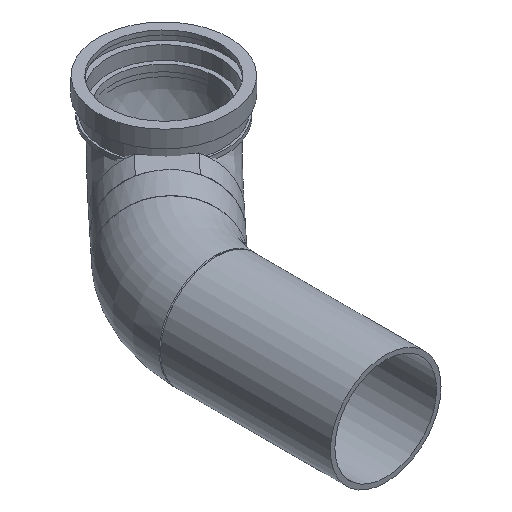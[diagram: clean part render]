
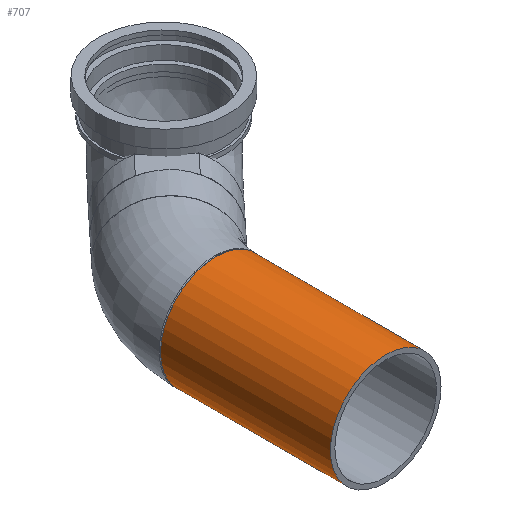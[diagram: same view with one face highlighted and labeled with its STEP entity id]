
A CAD part, isometric view. The second image highlights one B-rep face of the part: STEP entity #707.
In plain terms, the highlighted cylindrical face has radius 55.2 mm (diameter 110.4 mm), a full revolution.
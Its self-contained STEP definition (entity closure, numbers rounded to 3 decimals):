
#79=FACE_BOUND($,#161,.T.);
#112=FACE_OUTER_BOUND($,#160,.T.);
#160=EDGE_LOOP($,(#468));
#161=EDGE_LOOP($,(#469));
#225=CIRCLE($,#762,55.2);
#230=CIRCLE($,#771,55.2);
#304=VERTEX_POINT($,#1033);
#309=VERTEX_POINT($,#1047);
#369=EDGE_CURVE($,#304,#304,#225,.T.);
#374=EDGE_CURVE($,#309,#309,#230,.T.);
#468=ORIENTED_EDGE($,*,*,#369,.T.);
#469=ORIENTED_EDGE($,*,*,#374,.F.);
#638=CYLINDRICAL_SURFACE($,#770,55.2);
#707=ADVANCED_FACE($,(#112,#79),#638,.T.);
#762=AXIS2_PLACEMENT_3D($,#1034,#843,#844);
#770=AXIS2_PLACEMENT_3D($,#1046,#859,#860);
#771=AXIS2_PLACEMENT_3D($,#1048,#861,#862);
#843=DIRECTION('center_axis',(0.,-1.,0.));
#844=DIRECTION('ref_axis',(1.,0.,0.));
#859=DIRECTION('center_axis',(0.,1.,0.));
#860=DIRECTION('ref_axis',(1.,0.,0.));
#861=DIRECTION('center_axis',(0.,-1.,0.));
#862=DIRECTION('ref_axis',(1.,0.,0.));
#1033=CARTESIAN_POINT('',(-55.2,169.363,0.));
#1034=CARTESIAN_POINT('Origin',(0.,169.363,0.));
#1046=CARTESIAN_POINT('Origin',(0.,0.,0.));
#1047=CARTESIAN_POINT('',(-55.2,0.,0.));
#1048=CARTESIAN_POINT('Origin',(0.,0.,0.));
